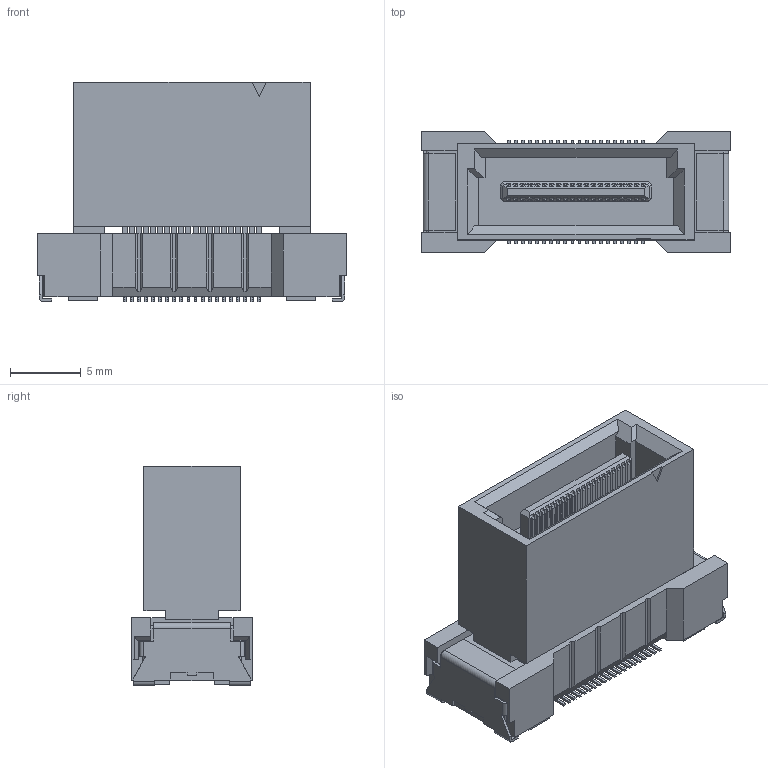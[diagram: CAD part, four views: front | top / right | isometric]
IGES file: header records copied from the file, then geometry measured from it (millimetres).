
Start section: Elysium IGES Interface
Global section: file name: 146HG:\その他\DT関連\【59期以前】\DT_CADﾃﾞｰﾀ\DT_3DCAD\DT0□\FS-10\60-36-0113_WEBサイトアップロード用\ボス無し_DT00-XXXFS-10\P3E104_DT00-040FS-10-T.igs; native system: Creo Elements/Direct Modeling 20.4A  18-Oct-2021; preprocessor: Creo Element/Direct IGES_3D V2.2; author: Unknown; organization: Unknown; date: 20220225.174118; units: millimetre
Bounding box: 21.8 x 8.5 x 15.5 mm (x, y, z)
Volume: 1654.1 mm3; surface area: 1657.5 mm2
Topology: 1 solids, 1 shells, 1285 faces, 3613 edges, 2370 vertices
Faces by surface type: bspline 1285
